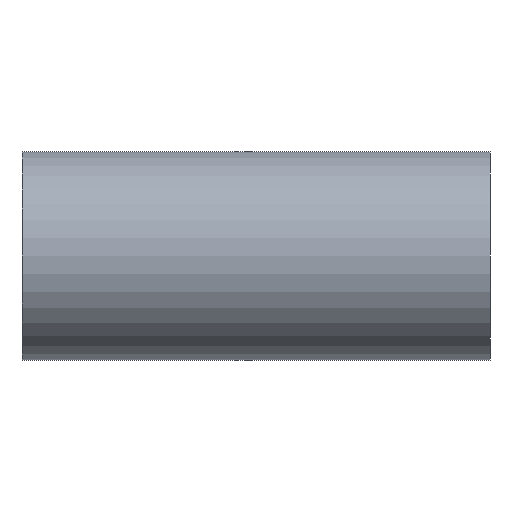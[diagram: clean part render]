
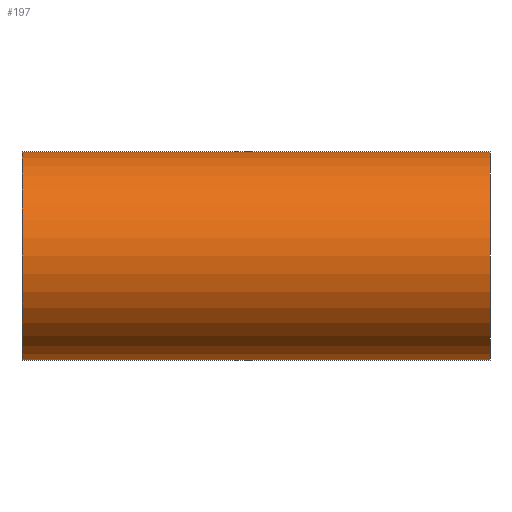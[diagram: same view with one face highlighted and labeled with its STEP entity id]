
A CAD part, front view. The second image highlights one B-rep face of the part: STEP entity #197.
In plain terms, the highlighted cylindrical face has radius 76.2 mm (diameter 152.4 mm), a partial arc.
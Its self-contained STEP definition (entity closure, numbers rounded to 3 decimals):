
#37 = EDGE_CURVE ( 'NONE', #516, #518, #335, .T. ) ;
#46 = CARTESIAN_POINT ( 'NONE',  ( 386.526, 0., -76.2 ) ) ;
#51 = DIRECTION ( 'NONE',  ( -1., 0., 0. ) ) ;
#98 = CARTESIAN_POINT ( 'NONE',  ( 386.526, 0., 76.2 ) ) ;
#127 = DIRECTION ( 'NONE',  ( -1., 0., 0. ) ) ;
#135 = CARTESIAN_POINT ( 'NONE',  ( -171., 0., -76.2 ) ) ;
#140 = ORIENTED_EDGE ( 'NONE', *, *, #627, .T. ) ;
#150 = ORIENTED_EDGE ( 'NONE', *, *, #37, .T. ) ;
#197 = ADVANCED_FACE ( 'NONE', ( #454 ), #459, .T. ) ;
#207 = AXIS2_PLACEMENT_3D ( 'NONE', #447, #586, #395 ) ;
#240 = EDGE_CURVE ( 'NONE', #593, #302, #460, .T. ) ;
#242 = DIRECTION ( 'NONE',  ( -1., 0., 0. ) ) ;
#275 = VECTOR ( 'NONE', #51, 1000. ) ;
#286 = CARTESIAN_POINT ( 'NONE',  ( 171., 0., -76.2 ) ) ;
#288 = DIRECTION ( 'NONE',  ( 0., 0., 1. ) ) ;
#302 = VERTEX_POINT ( 'NONE', #135 ) ;
#316 = EDGE_LOOP ( 'NONE', ( #559, #489, #150, #140 ) ) ;
#322 = DIRECTION ( 'NONE',  ( -1., 0., 0. ) ) ;
#325 = CARTESIAN_POINT ( 'NONE',  ( 171., 0., 0. ) ) ;
#331 = CARTESIAN_POINT ( 'NONE',  ( 171., 0., 76.2 ) ) ;
#335 = LINE ( 'NONE', #98, #345 ) ;
#345 = VECTOR ( 'NONE', #242, 1000. ) ;
#347 = CARTESIAN_POINT ( 'NONE',  ( -171., 0., 76.2 ) ) ;
#395 = DIRECTION ( 'NONE',  ( 0., 0., 1. ) ) ;
#436 = EDGE_CURVE ( 'NONE', #593, #516, #603, .T. ) ;
#447 = CARTESIAN_POINT ( 'NONE',  ( -171., 0., 0. ) ) ;
#454 = FACE_OUTER_BOUND ( 'NONE', #316, .T. ) ;
#459 = CYLINDRICAL_SURFACE ( 'NONE', #512, 76.2 ) ;
#460 = LINE ( 'NONE', #46, #275 ) ;
#489 = ORIENTED_EDGE ( 'NONE', *, *, #436, .T. ) ;
#512 = AXIS2_PLACEMENT_3D ( 'NONE', #592, #127, #585 ) ;
#516 = VERTEX_POINT ( 'NONE', #331 ) ;
#518 = VERTEX_POINT ( 'NONE', #347 ) ;
#558 = CIRCLE ( 'NONE', #207, 76.2 ) ;
#559 = ORIENTED_EDGE ( 'NONE', *, *, #240, .F. ) ;
#585 = DIRECTION ( 'NONE',  ( 0., 0., 1. ) ) ;
#586 = DIRECTION ( 'NONE',  ( 1., 0., 0. ) ) ;
#592 = CARTESIAN_POINT ( 'NONE',  ( 386.526, 0., 0. ) ) ;
#593 = VERTEX_POINT ( 'NONE', #286 ) ;
#598 = AXIS2_PLACEMENT_3D ( 'NONE', #325, #322, #288 ) ;
#603 = CIRCLE ( 'NONE', #598, 76.2 ) ;
#627 = EDGE_CURVE ( 'NONE', #518, #302, #558, .T. ) ;
